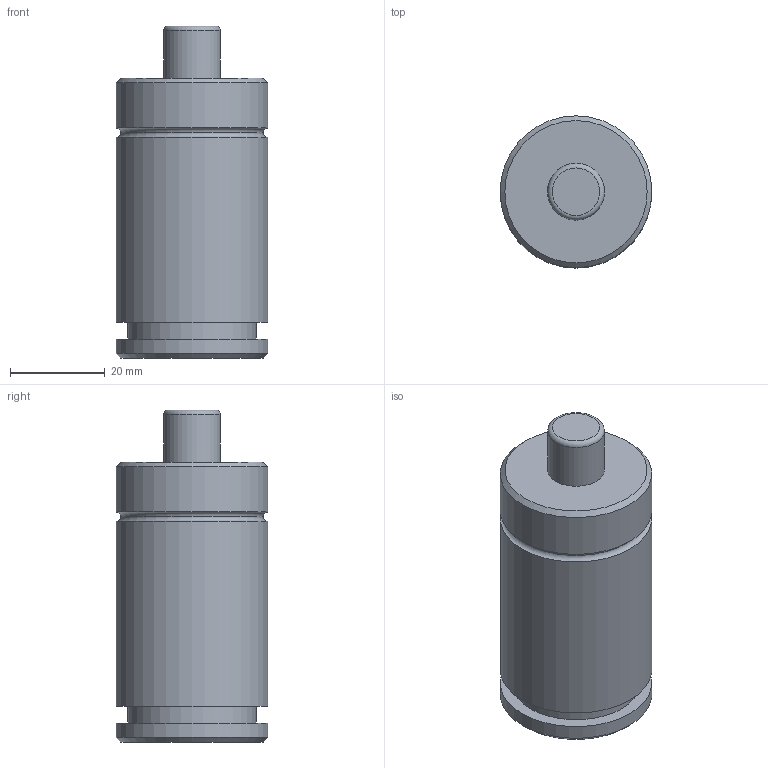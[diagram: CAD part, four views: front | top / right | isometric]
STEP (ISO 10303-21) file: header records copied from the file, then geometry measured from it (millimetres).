
FILE_DESCRIPTION(('FreeCAD Model'),'2;1');
FILE_NAME('Open CASCADE Shape Model','2024-11-14T09:50:20',('Author'),( ''),'Open CASCADE STEP processor 7.6','FreeCAD','Unknown');
FILE_SCHEMA(('AUTOMOTIVE_DESIGN { 1 0 10303 214 1 1 1 1 }'));
Length unit declared in the file: millimetre
Products named in the file (5): Unnamed; Part003; Cut; Part009; Cut003
Assembly tree (4 placements, depth 3):
  Unnamed
    Part003
      Cut
    Part009
      Cut003
Bounding box: 32 x 32 x 70 mm (x, y, z)
Volume: 46549.4 mm3; surface area: 9327.1 mm2
Topology: 2 solids, 3 shells, 25 faces, 36 edges, 22 vertices
Faces by surface type: plane 11, cylinder 9, torus 3, cone 2
Full cylindrical faces by diameter (mm): 6 x4, 12 x1, 27 x1, 32 x3
Entity records: 647 total; most frequent: DIRECTION 121, CARTESIAN_POINT 88, ORIENTED_EDGE 72, AXIS2_PLACEMENT_3D 55, EDGE_CURVE 36, FACE_BOUND 30, EDGE_LOOP 30, ADVANCED_FACE 25
